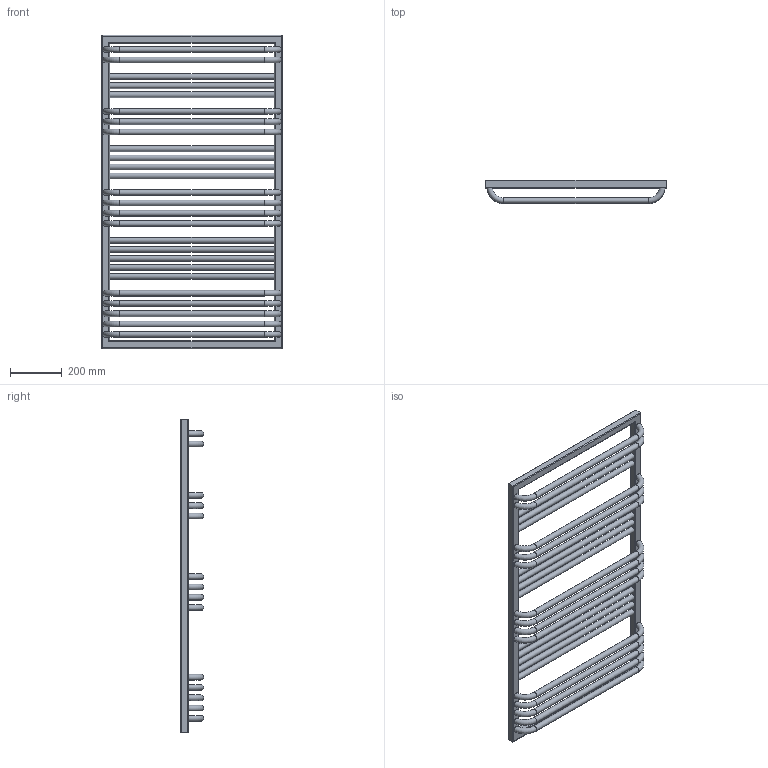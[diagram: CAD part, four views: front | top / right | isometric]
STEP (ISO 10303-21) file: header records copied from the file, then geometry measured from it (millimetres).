
FILE_DESCRIPTION((''),'2;1');
FILE_NAME('Z:\R\G\P\RGPH18 - Grzejnik POC\Work\Inventor\POC 1-6-8 v2.0\Marketing\AutoCad 3D\POC-1215-700-1-6-8.stp','2012-07-12T14:39:23',('KurKa'),(''),'Autodesk Inventor 2012','Autodesk Inventor 2012','');
FILE_SCHEMA(('AUTOMOTIVE_DESIGN { 1 0 10303 214 1 1 1 1 }'));
Length unit declared in the file: millimetre
Products named in the file (1): POC-1215-700-1-6-8
Bounding box: 700 x 90 x 1215 mm (x, y, z)
Volume: 10063069.9 mm3; surface area: 1636796.6 mm2
Topology: 1 solids, 1 shells, 89 faces, 233 edges, 149 vertices
Faces by surface type: cylinder 45, torus 31, plane 13
Full cylindrical faces by diameter (mm): 18.631 x3, 22 x26
Entity records: 4078 total; most frequent: CARTESIAN_POINT 2176, DIRECTION 374, ORIENTED_EDGE 290, EDGE_LOOP 206, AXIS2_PLACEMENT_3D 167, EDGE_CURVE 145, VERTEX_POINT 121, FACE_BOUND 117
